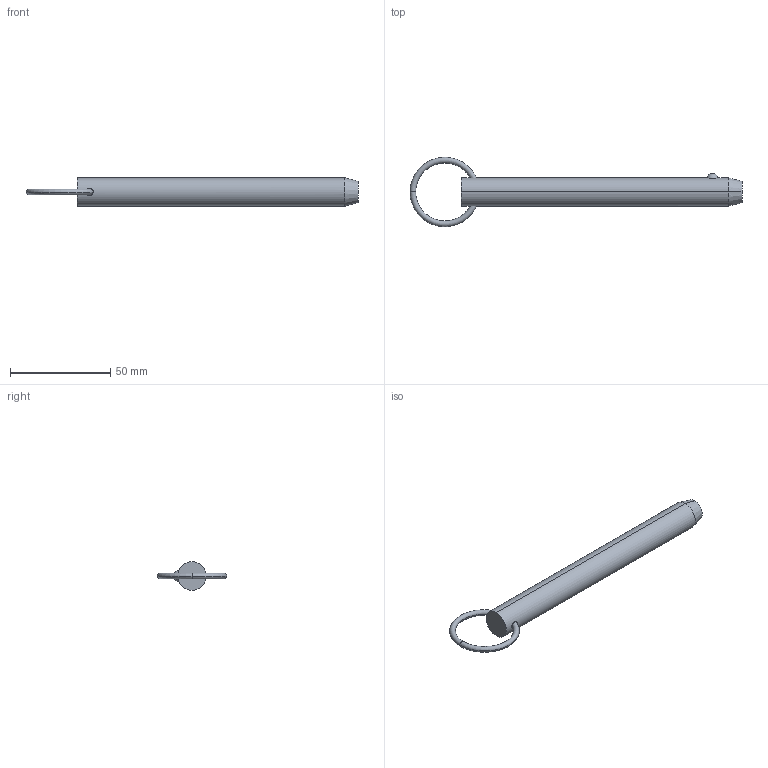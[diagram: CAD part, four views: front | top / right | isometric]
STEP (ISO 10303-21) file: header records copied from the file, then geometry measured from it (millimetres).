
FILE_DESCRIPTION (( 'STEP AP203' ), '1' );
FILE_NAME ('33010.W5645.step', '2024-11-01T10:40:33', ( '' ), ( '' ), 'SwSTEP 2.0', 'SolidWorks 2019', '' );
FILE_SCHEMA (( 'CONFIG_CONTROL_DESIGN' ));
Length unit declared in the file: millimetre
Products named in the file (3): 33010.W5645; Part2_33010.W5645; Part1_33010.W5645
Assembly tree (2 placements, depth 2):
  33010.W5645
    Part1_33010.W5645
    Part2_33010.W5645
Bounding box: 165.2 x 34.59 x 14.22 mm (x, y, z)
Volume: 22460.7 mm3; surface area: 7507.9 mm2
Topology: 2 solids, 2 shells, 16 faces, 31 edges, 18 vertices
Faces by surface type: torus 8, sphere 2, cone 2, cylinder 2, plane 2
Entity records: 875 total; most frequent: CARTESIAN_POINT 232, DIRECTION 88, ORIENTED_EDGE 62, AXIS2_PLACEMENT_3D 42, EDGE_CURVE 31, PERSON_AND_ORGANIZATION 26, CIRCLE 21, EDGE_LOOP 19
